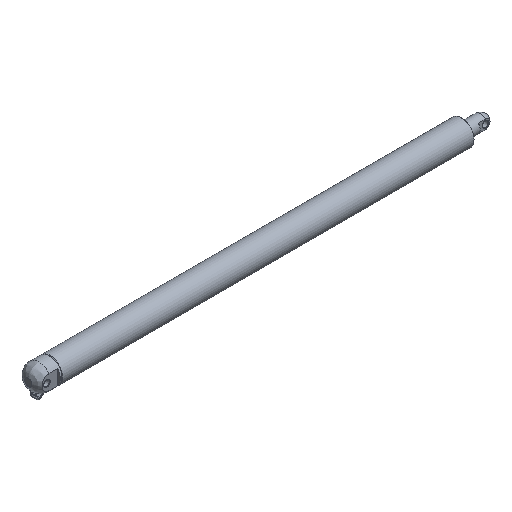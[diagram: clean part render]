
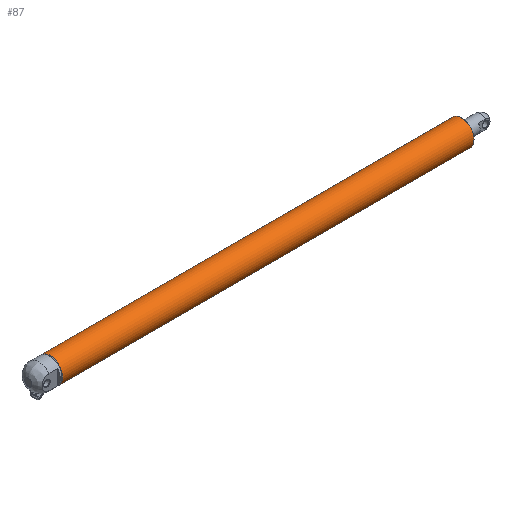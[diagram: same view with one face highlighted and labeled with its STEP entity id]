
A CAD part, isometric view. The second image highlights one B-rep face of the part: STEP entity #87.
In plain terms, the highlighted cylindrical face has radius 17.5 mm (diameter 35 mm), a full revolution.
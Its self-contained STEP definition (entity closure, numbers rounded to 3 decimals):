
#87 = ADVANCED_FACE( '', ( #228, #229 ), #230, .T. );
#228 = FACE_OUTER_BOUND( '', #446, .T. );
#229 = FACE_OUTER_BOUND( '', #447, .T. );
#230 = CYLINDRICAL_SURFACE( '', #448, 17.5 );
#446 = EDGE_LOOP( '', ( #728 ) );
#447 = EDGE_LOOP( '', ( #729 ) );
#448 = AXIS2_PLACEMENT_3D( '', #730, #731, #732 );
#728 = ORIENTED_EDGE( '', *, *, #1213, .T. );
#729 = ORIENTED_EDGE( '', *, *, #1214, .T. );
#730 = CARTESIAN_POINT( '', ( 576., 0., 0. ) );
#731 = DIRECTION( '', ( 1., 0., 0. ) );
#732 = DIRECTION( '', ( 0., 0., 1. ) );
#1213 = EDGE_CURVE( '', #1401, #1401, #1402, .F. );
#1214 = EDGE_CURVE( '', #1403, #1403, #1404, .T. );
#1401 = VERTEX_POINT( '', #1678 );
#1402 = CIRCLE( '', #1679, 17.5 );
#1403 = VERTEX_POINT( '', #1680 );
#1404 = CIRCLE( '', #1681, 17.5 );
#1678 = CARTESIAN_POINT( '', ( 0.5, 0., 17.5 ) );
#1679 = AXIS2_PLACEMENT_3D( '', #2240, #2241, #2242 );
#1680 = CARTESIAN_POINT( '', ( 575.5, 0., 17.5 ) );
#1681 = AXIS2_PLACEMENT_3D( '', #2243, #2244, #2245 );
#2240 = CARTESIAN_POINT( '', ( 0.5, 0., 0. ) );
#2241 = DIRECTION( '', ( -1., 0., 0. ) );
#2242 = DIRECTION( '', ( 0., 0., 1. ) );
#2243 = CARTESIAN_POINT( '', ( 575.5, 0., 0. ) );
#2244 = DIRECTION( '', ( -1., 0., 0. ) );
#2245 = DIRECTION( '', ( 0., 0., 1. ) );
